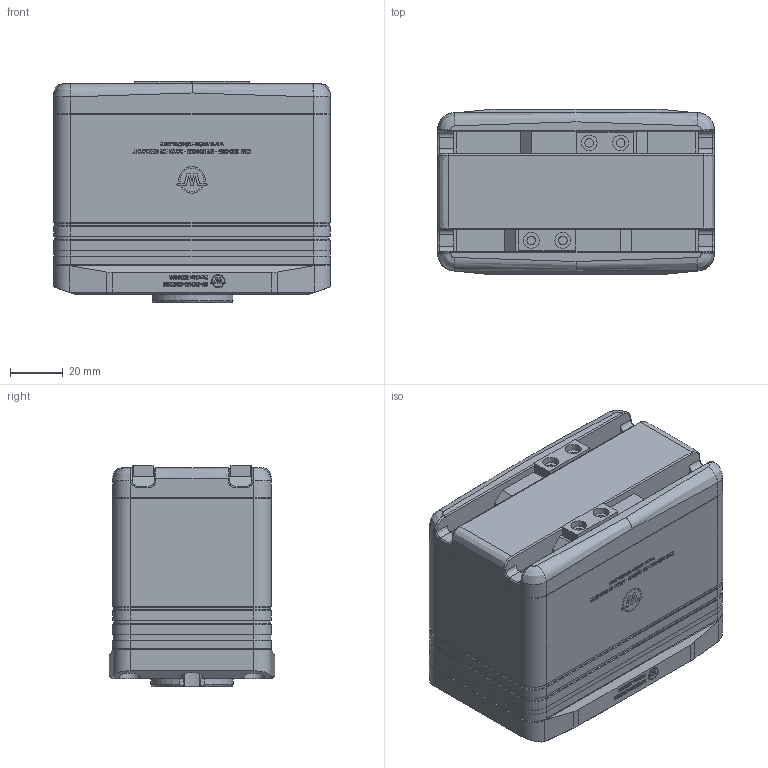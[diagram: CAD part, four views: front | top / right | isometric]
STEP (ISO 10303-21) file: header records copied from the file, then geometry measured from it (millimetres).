
FILE_DESCRIPTION(/* description */ (''),/* implementation_level */ '2;1');
FILE_NAME(/* name */ 'GRIPKIT-CR-PLUS-L_Customer.stp',/* time_stamp */ '2022-02-10T18:20:31+01:00',/* author */ ('Karsten'),/* organization */ (''),/* preprocessor_version */ 'ST-DEVELOPER v17',/* originating_system */ 'Autodesk Inventor 2018',/* authorisation */ '');
FILE_SCHEMA (('AUTOMOTIVE_DESIGN { 1 0 10303 214 3 1 1 }'));
Products named in the file (7): GRIPKIT-CR-PLUS-L_Customer; SF-ISO50-CRG200_Customer; CRG200-085_customer; CRG200_tragstruktur; CRG200_tragstruktur_1; IEG76-0003; ISO 4762 - M4 x 12
Assembly tree (10 placements, depth 3):
  GRIPKIT-CR-PLUS-L_Customer
    SF-ISO50-CRG200_Customer
    CRG200-085_customer
      CRG200_tragstruktur
      CRG200_tragstruktur_1
      IEG76-0003  x2
    ISO 4762 - M4 x 12  x4
Bounding box: 105 x 63 x 84 mm (x, y, z)
Volume: 479776.2 mm3; surface area: 74156.6 mm2
Topology: 9 solids, 9 shells, 1727 faces, 4597 edges, 3052 vertices
Faces by surface type: bspline 822, plane 704, cylinder 141, cone 44, torus 16
Full cylindrical faces by diameter (mm): 1.63 x4, 3.242 x8, 4 x4, 4.2 x4, 6 x8, 6.5 x4, 7 x4, 8 x4, 9 x4, 11 x4
Entity records: 71757 total; most frequent: CARTESIAN_POINT 35423, ORIENTED_EDGE 8814, DIRECTION 4808, EDGE_CURVE 4407, VERTEX_POINT 2923, LINE 2382, VECTOR 2382, EDGE_LOOP 1840
